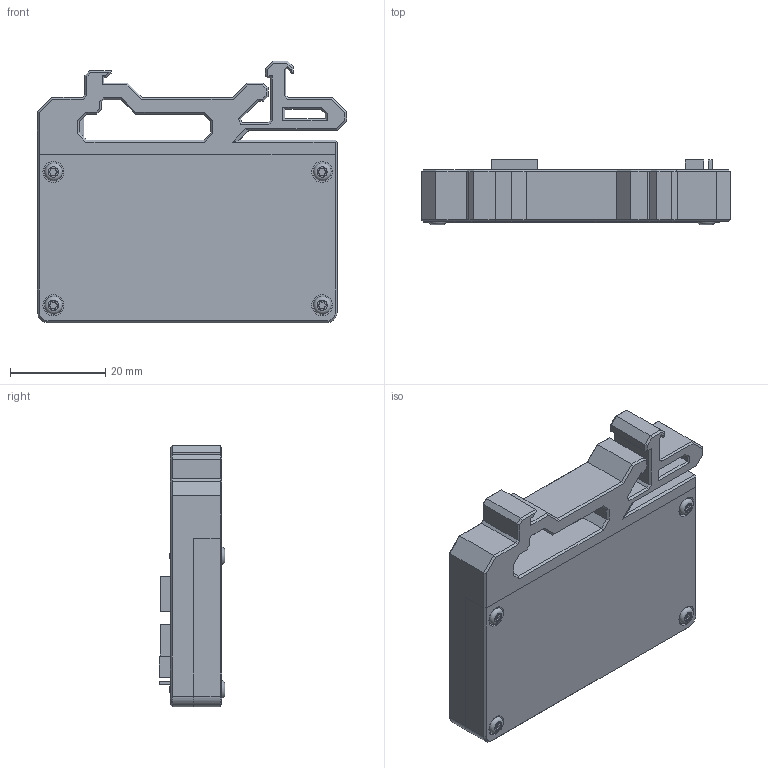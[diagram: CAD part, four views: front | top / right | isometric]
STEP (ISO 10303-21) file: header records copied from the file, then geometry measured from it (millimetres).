
FILE_DESCRIPTION(/* description */ (''),/* implementation_level */ '2;1');
FILE_NAME(/* name */ 'Wemos-Mini-D1 + LS v6.step',/* time_stamp */ '2023-07-05T17:17:57-07:00',/* author */ (''),/* organization */ (''),/* preprocessor_version */ 'ST-DEVELOPER v19.2',/* originating_system */ 'Autodesk Translation Framework v12.6.0.85',/* authorisation */ '');
FILE_SCHEMA (('AUTOMOTIVE_DESIGN { 1 0 10303 214 3 1 1 }'));
Products named in the file (12): Wemos-Mini-D1 + LS; M2x10 self tapping screw v4; Component5; M2x10 self tapping screw v4 (3); Component11; M2x10 self tapping screw v4 (2); Component9; M2x10 self tapping screw v4 (1); Component7; Level Shifter; Wemos D1 Mini 4.0 DIN; Wemos D1 Mini 4.0
Assembly tree (11 placements, depth 4):
  Wemos-Mini-D1 + LS
    M2x10 self tapping screw v4
      Component5
      M2x10 self tapping screw v4 (3)
        Component11
      M2x10 self tapping screw v4 (2)
        Component9
      M2x10 self tapping screw v4 (1)
        Component7
    Level Shifter
    Wemos D1 Mini 4.0 DIN
    Wemos D1 Mini 4.0
Bounding box: 65 x 13.83 x 54.99 mm (x, y, z)
Volume: 25760.5 mm3; surface area: 22481 mm2
Topology: 40 solids, 60 shells, 2573 faces, 6750 edges, 4392 vertices
Faces by surface type: plane 1881, cylinder 375, bspline 279, cone 30, torus 4, sphere 4
Full cylindrical faces by diameter (mm): 0.6 x1, 0.9 x12, 0.95 x2, 1 x16, 1.3 x2, 1.5 x16, 2 x4, 2.2 x8, 3.75 x4, 4.4 x4
Entity records: 92597 total; most frequent: CARTESIAN_POINT 29588, ORIENTED_EDGE 13498, DIRECTION 11629, EDGE_CURVE 6749, LINE 5371, VECTOR 5371, VERTEX_POINT 4392, AXIS2_PLACEMENT_3D 3129
